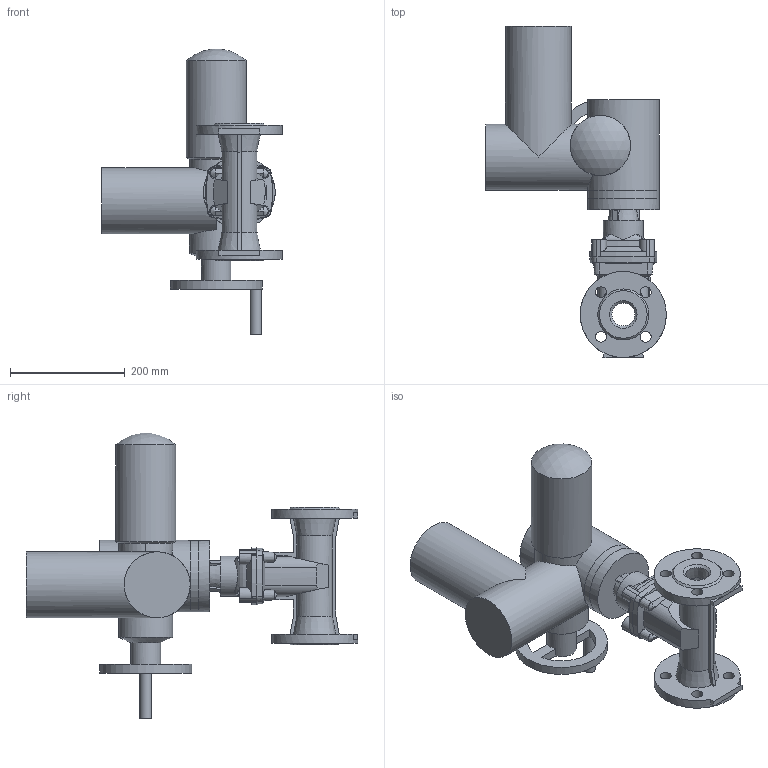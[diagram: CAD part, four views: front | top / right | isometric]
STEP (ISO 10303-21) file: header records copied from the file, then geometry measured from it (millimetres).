
FILE_DESCRIPTION (( 'STEP AP203' ), '1' );
FILE_NAME ('O_15_70_DN040_X1X_SA07.6_AA0.step', '2017-03-20T12:41:50', ( 'Windows User' ), ( 'AVK' ), 'SwSTEP 2.0', 'SolidWorks 2012', '' );
FILE_SCHEMA (( 'CONFIG_CONTROL_DESIGN' ));
Length unit declared in the file: inch
Products named in the file (1): O_15_70_DN040_X1X_SA07.6_AA0
Bounding box: 315 x 577.5 x 498.55 mm (x, y, z)
Volume: 10237661 mm3; surface area: 574399.9 mm2
Topology: 1 solids, 1 shells, 244 faces, 663 edges, 429 vertices
Faces by surface type: plane 119, cylinder 61, cone 57, torus 4, bspline 2, sphere 1
Full cylindrical faces by diameter (mm): 19 x8, 20 x1, 50 x1, 52.112 x1, 70 x1, 93.905 x1, 105 x1, 115 x2, 125 x3, 150 x2, 160 x1
Entity records: 8708 total; most frequent: CARTESIAN_POINT 2968, ORIENTED_EDGE 1212, DIRECTION 1094, EDGE_CURVE 606, AXIS2_PLACEMENT_3D 419, VERTEX_POINT 406, EDGE_LOOP 306, FACE_OUTER_BOUND 265
